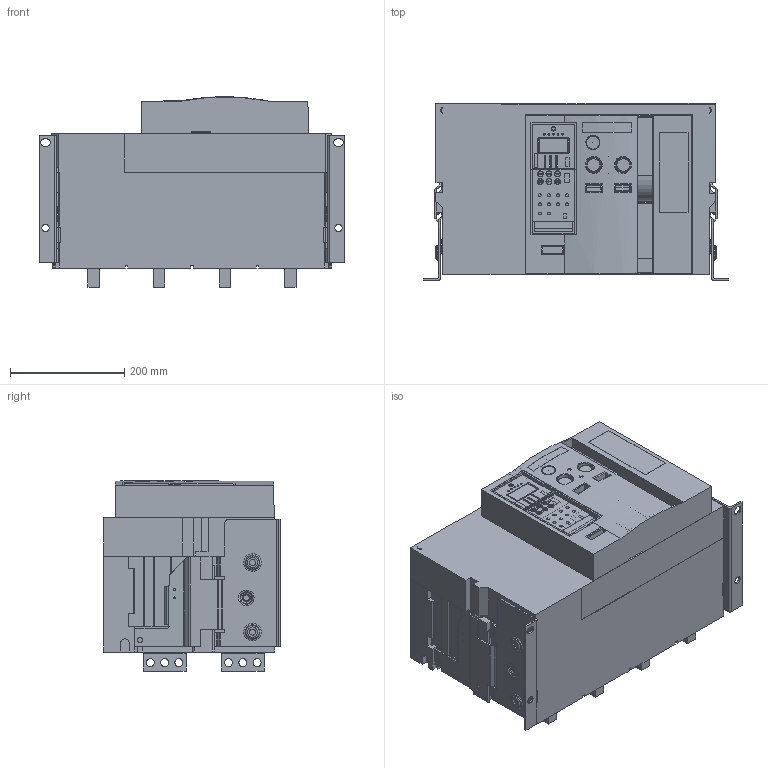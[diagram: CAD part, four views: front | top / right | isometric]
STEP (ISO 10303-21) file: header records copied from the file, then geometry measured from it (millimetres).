
FILE_DESCRIPTION (( 'STEP AP214' ), '1' );
FILE_NAME ('OptiMat A-S4-BH-2500-3200-4P-F-V.STEP', '2023-10-19T10:00:17', ( '' ), ( '' ), 'SwSTEP 2.0', 'SolidWorks 2018', '' );
FILE_SCHEMA (( 'AUTOMOTIVE_DESIGN' ));
Length unit declared in the file: millimetre
Products named in the file (1): OptiMat A-S4-BH-2500-3200-4P-F-V
Bounding box: 536 x 310.5 x 333.81 mm (x, y, z)
Volume: 33639632.2 mm3; surface area: 1612006.7 mm2
Topology: 19 solids, 34 shells, 4754 faces, 12815 edges, 8380 vertices
Faces by surface type: plane 2771, cylinder 1374, bspline 265, cone 165, torus 155, sphere 24
Entity records: 213019 total; most frequent: CARTESIAN_POINT 42652, ORIENTED_EDGE 25540, DIRECTION 24443, EDGE_CURVE 12770, VERTEX_POINT 8375, AXIS2_PLACEMENT_3D 8165, LINE 8113, VECTOR 8113
